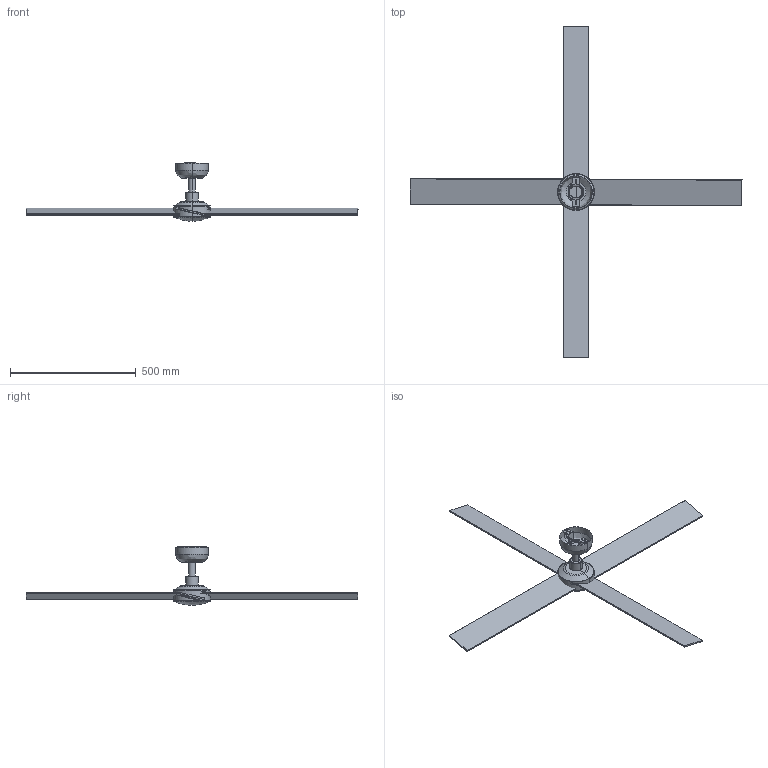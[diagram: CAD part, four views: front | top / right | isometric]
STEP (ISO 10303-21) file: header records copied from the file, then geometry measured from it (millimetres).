
FILE_DESCRIPTION(/* description */ (''),/* implementation_level */ '2;1');
FILE_NAME(/* name */ '34355_3d',/* time_stamp */ '2026-06-02T11:43:40+02:00',/* author */ (''),/* organization */ (''),/* preprocessor_version */ 'ST-DEVELOPER v19.2',/* originating_system */ 'Rhino 8.30',/* authorisation */ '');
FILE_SCHEMA (('CONFIG_CONTROL_DESIGN'));
Length unit declared in the file: millimetre
Products named in the file (1): Document
Bounding box: 1320.39 x 1320 x 233.02 mm (x, y, z)
Volume: 2230327.9 mm3; surface area: 752099.4 mm2
Topology: 6 solids, 7 shells, 266 faces, 714 edges, 446 vertices
Faces by surface type: plane 132, cylinder 100, bspline 34
Entity records: 13360 total; most frequent: CARTESIAN_POINT 6227, ORIENTED_EDGE 1412, EDGE_CURVE 712, DIRECTION 670, B_SPLINE_CURVE_WITH_KNOTS 457, AXIS2_PLACEMENT_3D 451, VERTEX_POINT 446, EDGE_LOOP 305
